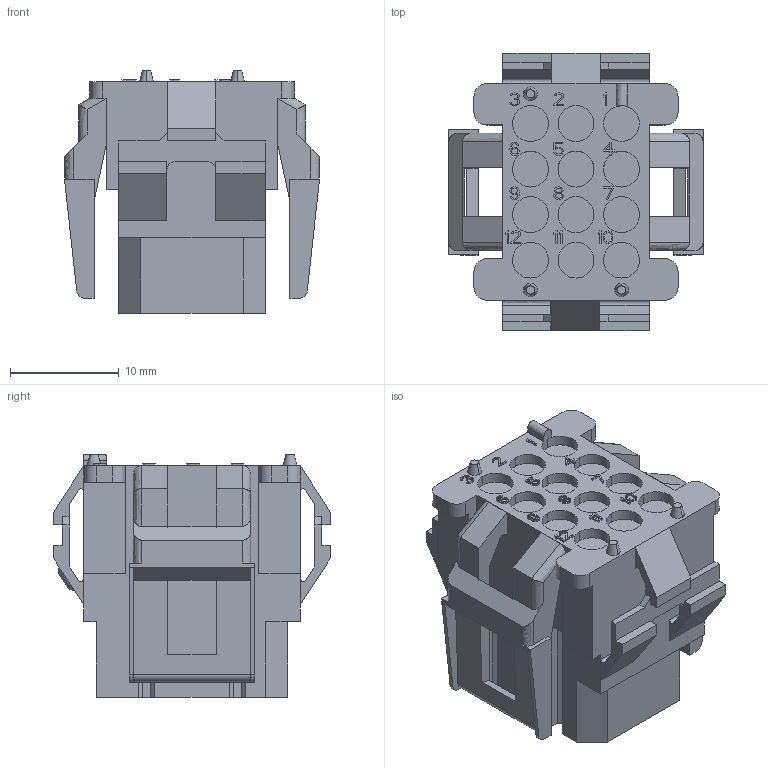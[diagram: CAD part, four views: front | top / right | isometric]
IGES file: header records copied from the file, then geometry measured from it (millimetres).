
Start section:  PTC IGES file: c-1-640522-0-af-3d.igs
Global section: file name: c-1-640522-0-af-3d.igs; native system: Creo Parametric by PTC Inc.; preprocessor: 2021072; author: workeradm; organization: Unknown; units: millimetre
Bounding box: 23.39 x 25.53 x 22.35 mm (x, y, z)
Surface area: 4018.7 mm2 (no closed solid volume)
Topology: 0 solids, 0 shells, 776 faces, 4417 edges, 4452 vertices
Faces by surface type: bspline 677, revolution 99
